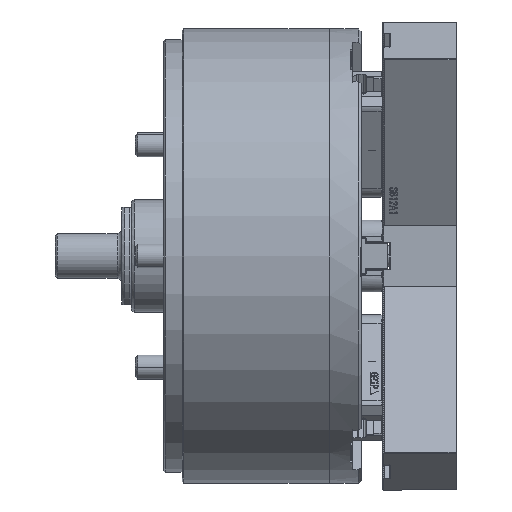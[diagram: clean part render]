
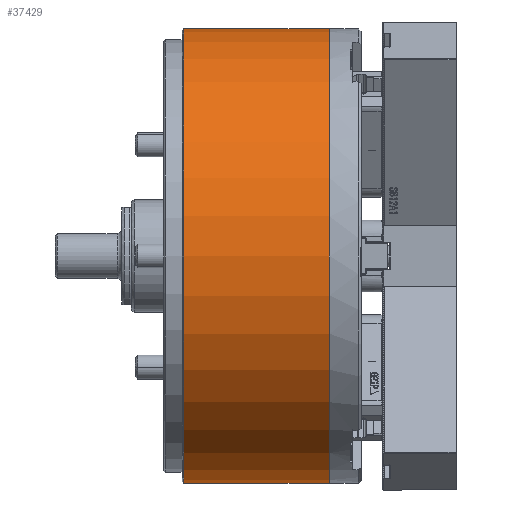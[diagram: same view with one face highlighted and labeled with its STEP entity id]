
A CAD part, front view. The second image highlights one B-rep face of the part: STEP entity #37429.
In plain terms, the highlighted cylindrical face has radius 152 mm (diameter 304 mm), a partial arc.
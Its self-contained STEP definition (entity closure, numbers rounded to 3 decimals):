
#5171 = EDGE_CURVE ( 'NONE', #35366, #113684, #159823, .T. ) ;
#18077 = DIRECTION ( 'NONE',  ( 0., 0., 1. ) ) ;
#21740 = FACE_OUTER_BOUND ( 'NONE', #113816, .T. ) ;
#22215 = EDGE_CURVE ( 'NONE', #139325, #35366, #96208, .T. ) ;
#25163 = CARTESIAN_POINT ( 'NONE',  ( -7.4, 0., 152. ) ) ;
#34188 = ORIENTED_EDGE ( 'NONE', *, *, #134550, .T. ) ;
#35366 = VERTEX_POINT ( 'NONE', #118731 ) ;
#37429 = ADVANCED_FACE ( 'NONE', ( #21740 ), #83945, .T. ) ;
#39936 = CARTESIAN_POINT ( 'NONE',  ( -7.4, 0., -152. ) ) ;
#44151 = CARTESIAN_POINT ( 'NONE',  ( -128.459, 0., 0. ) ) ;
#46874 = AXIS2_PLACEMENT_3D ( 'NONE', #77180, #170145, #90559 ) ;
#48788 = VECTOR ( 'NONE', #130811, 1000. ) ;
#57717 = AXIS2_PLACEMENT_3D ( 'NONE', #149913, #70315, #163213 ) ;
#70315 = DIRECTION ( 'NONE',  ( -1., 0., 0. ) ) ;
#75684 = CARTESIAN_POINT ( 'NONE',  ( -128.459, 0., -152. ) ) ;
#77180 = CARTESIAN_POINT ( 'NONE',  ( -7.4, 0., 0. ) ) ;
#83945 = CYLINDRICAL_SURFACE ( 'NONE', #118003, 152. ) ;
#87658 = CIRCLE ( 'NONE', #46874, 152. ) ;
#88225 = LINE ( 'NONE', #104058, #48788 ) ;
#90559 = DIRECTION ( 'NONE',  ( 0., 0., 1. ) ) ;
#95765 = ORIENTED_EDGE ( 'NONE', *, *, #22215, .F. ) ;
#96208 = LINE ( 'NONE', #75684, #162723 ) ;
#99129 = ORIENTED_EDGE ( 'NONE', *, *, #5171, .F. ) ;
#104058 = CARTESIAN_POINT ( 'NONE',  ( -128.459, 0., 152. ) ) ;
#110333 = DIRECTION ( 'NONE',  ( -1., 0., 0. ) ) ;
#113684 = VERTEX_POINT ( 'NONE', #165631 ) ;
#113816 = EDGE_LOOP ( 'NONE', ( #95765, #153055, #34188, #99129 ) ) ;
#118003 = AXIS2_PLACEMENT_3D ( 'NONE', #44151, #110333, #18077 ) ;
#118731 = CARTESIAN_POINT ( 'NONE',  ( -104.7, 0., -152. ) ) ;
#120881 = VERTEX_POINT ( 'NONE', #25163 ) ;
#122596 = EDGE_CURVE ( 'NONE', #139325, #120881, #87658, .T. ) ;
#130811 = DIRECTION ( 'NONE',  ( -1., 0., 0. ) ) ;
#134550 = EDGE_CURVE ( 'NONE', #120881, #113684, #88225, .T. ) ;
#139325 = VERTEX_POINT ( 'NONE', #39936 ) ;
#149913 = CARTESIAN_POINT ( 'NONE',  ( -104.7, 0., 0. ) ) ;
#153055 = ORIENTED_EDGE ( 'NONE', *, *, #122596, .T. ) ;
#159823 = CIRCLE ( 'NONE', #57717, 152. ) ;
#162723 = VECTOR ( 'NONE', #168620, 1000. ) ;
#163213 = DIRECTION ( 'NONE',  ( 0., 0., 1. ) ) ;
#165631 = CARTESIAN_POINT ( 'NONE',  ( -104.7, 0., 152. ) ) ;
#168620 = DIRECTION ( 'NONE',  ( -1., 0., 0. ) ) ;
#170145 = DIRECTION ( 'NONE',  ( -1., 0., 0. ) ) ;
